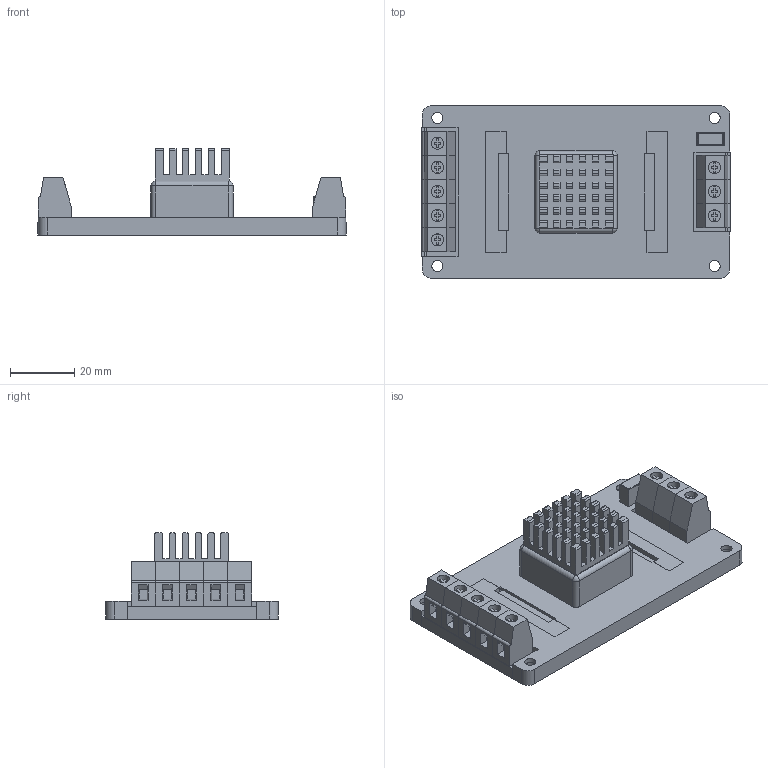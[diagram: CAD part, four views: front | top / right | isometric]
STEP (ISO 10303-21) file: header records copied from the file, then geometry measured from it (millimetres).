
FILE_DESCRIPTION(/* description */ (''),/* implementation_level */ '2;1');
FILE_NAME(/* name */ 'D:\Inventor\3D Files\200430\SW20F-X - A2.stp',/* time_stamp */ '2020-04-24T16:43:06+08:00',/* author */ ('peter'),/* organization */ (''),/* preprocessor_version */ 'ST-DEVELOPER v15.2',/* originating_system */ 'Autodesk Inventor 2014',/* authorisation */ '');
FILE_SCHEMA (('AUTOMOTIVE_DESIGN { 1 0 10303 214 3 1 1 }'));
Length unit declared in the file: millimetre
Products named in the file (12): PCB; TOP CASE - A2; BOT CASE - A2 _ TRACO; DT-128-01; INLET - A2 - IN; INLET - A2 - OUT; HOLDER - AHC AFC; A2 ASSEMBLY; SW20F for A2_5; HEATSINK _ 23x23x10 mm; SW20F-X for A2_5; SW20F-X - A2
Bounding box: 95.8 x 53.51 x 26.8 mm (x, y, z)
Volume: 37627.9 mm3; surface area: 44799.5 mm2
Topology: 15 solids, 15 shells, 849 faces, 2221 edges, 1468 vertices
Faces by surface type: plane 688, cylinder 151, torus 6, sphere 4
Full cylindrical faces by diameter (mm): 1 x6, 1.39 x4, 3.476 x4, 3.5 x8, 3.8 x8, 3.972 x1, 5.5 x4
Entity records: 17576 total; most frequent: CARTESIAN_POINT 3035, ORIENTED_EDGE 2918, DIRECTION 2915, EDGE_CURVE 1459, LINE 1183, VECTOR 1183, VERTEX_POINT 986, AXIS2_PLACEMENT_3D 866
